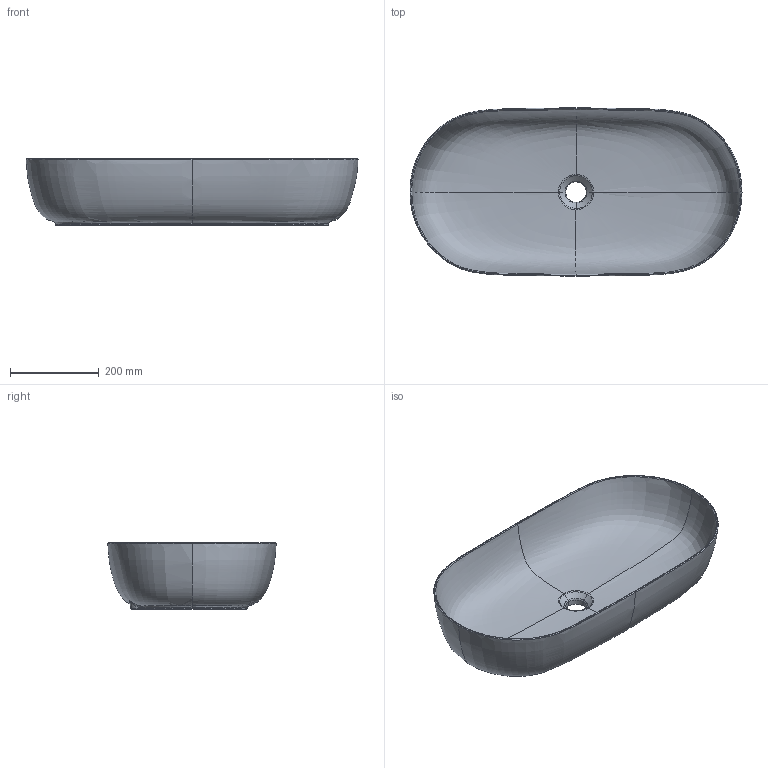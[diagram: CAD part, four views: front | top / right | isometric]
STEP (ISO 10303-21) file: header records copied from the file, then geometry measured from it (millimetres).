
FILE_DESCRIPTION(/* description */ (''),/* implementation_level */ '2;1');
FILE_NAME(/* name */ 'LAVABO_HAPPY_HOUR_21-00_PROTAP.stp',/* time_stamp */ '2021-05-17T15:55:17+02:00',/* author */ (''),/* organization */ (''),/* preprocessor_version */ 'ST-DEVELOPER v16.7',/* originating_system */ 'SIEMENS PLM Software NX 12.0',/* authorisation */ '');
FILE_SCHEMA (('AUTOMOTIVE_DESIGN { 1 0 10303 214 3 1 1 1 }'));
Products named in the file (1): Cava20841A6A3nkb
Bounding box: 750 x 380.16 x 150 mm (x, y, z)
Volume: 6818288.4 mm3; surface area: 854965.3 mm2
Topology: 1 solids, 1 shells, 199 faces, 451 edges, 258 vertices
Faces by surface type: bspline 179, plane 12, torus 7, cone 1
Entity records: 38521 total; most frequent: CARTESIAN_POINT 35492, ORIENTED_EDGE 884, EDGE_CURVE 442, B_SPLINE_CURVE_WITH_KNOTS 349, VERTEX_POINT 254, EDGE_LOOP 210, ADVANCED_FACE 199, FACE_OUTER_BOUND 190
